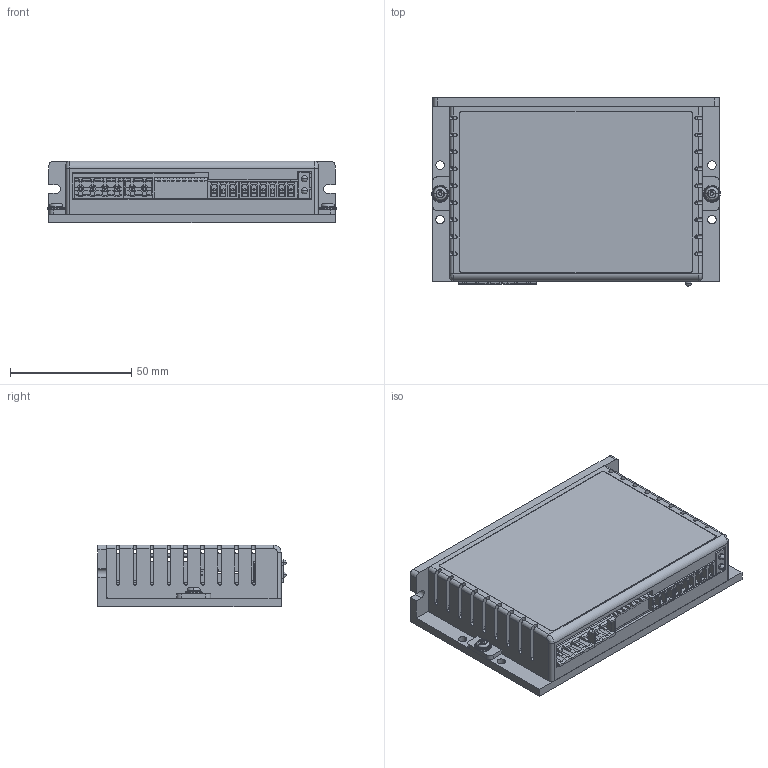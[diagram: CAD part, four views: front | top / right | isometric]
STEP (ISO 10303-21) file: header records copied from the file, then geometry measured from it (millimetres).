
FILE_DESCRIPTION (( 'STEP AP214' ), '1' );
FILE_NAME ('EM542S_V3.0_3D.STEP', '2019-08-07T08:59:24', ( 'hwtest' ), ( 'Microsoft' ), 'SwSTEP 2.0', 'SolidWorks 2014', '' );
FILE_SCHEMA (( 'AUTOMOTIVE_DESIGN' ));
Length unit declared in the file: millimetre
Products named in the file (1): EM542S_V3.0_3D
Bounding box: 119 x 77.6 x 25.5 mm (x, y, z)
Volume: 99982.5 mm3; surface area: 97384.2 mm2
Topology: 15 solids, 15 shells, 1923 faces, 5418 edges, 3534 vertices
Faces by surface type: plane 1518, cylinder 349, cone 28, torus 18, bspline 6, sphere 4
Entity records: 97823 total; most frequent: CARTESIAN_POINT 26962, ORIENTED_EDGE 10828, DIRECTION 9476, EDGE_CURVE 5414, LINE 4472, VECTOR 4472, VERTEX_POINT 3534, AXIS2_PLACEMENT_3D 2502
